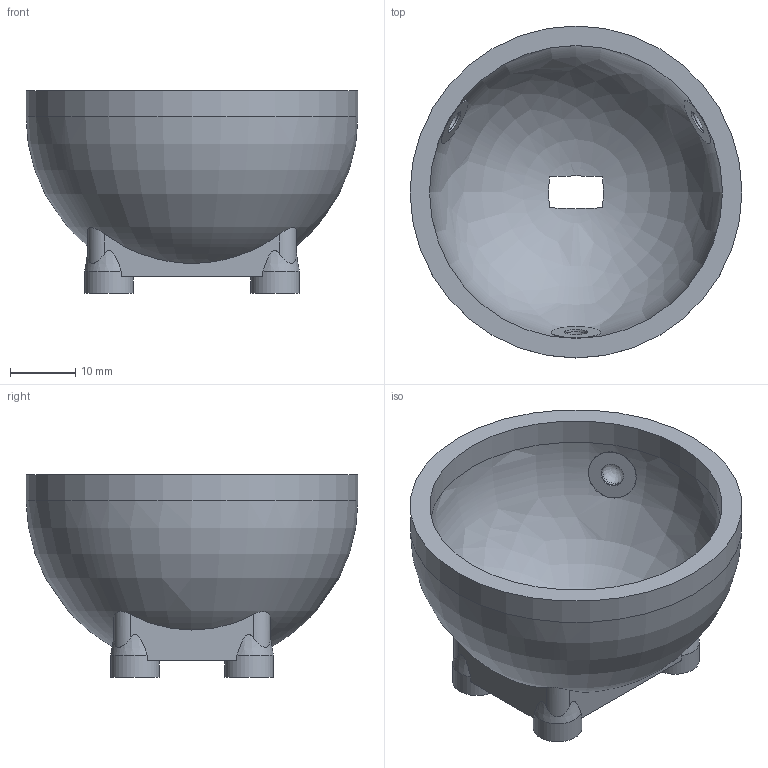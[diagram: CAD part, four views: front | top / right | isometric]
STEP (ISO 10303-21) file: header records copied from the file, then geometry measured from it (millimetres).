
FILE_DESCRIPTION(('Open CASCADE Model'),'2;1');
FILE_NAME('Open CASCADE Shape Model','2026-05-31T19:43:46',('Author'),( 'Open CASCADE'),'Open CASCADE STEP processor 7.6','Open CASCADE 7.6' ,'Unknown');
FILE_SCHEMA(('AP242_MANAGED_MODEL_BASED_3D_ENGINEERING_MIM_LF. {1 0 10303 442 1 1 4 }'));
Length unit declared in the file: millimetre
Products named in the file (1): Open CASCADE STEP translator 7.6 11
Bounding box: 51 x 51 x 31.1 mm (x, y, z)
Volume: 14138 mm3; surface area: 9938.7 mm2
Topology: 1 solids, 1 shells, 65 faces, 153 edges, 101 vertices
Faces by surface type: cylinder 27, plane 22, revolution 8, bspline 4, cone 4
Full cylindrical faces by diameter (mm): 3.5 x4, 3.57 x3, 3.572 x3, 7.5 x4, 7.57 x3, 45 x1, 51 x1
Entity records: 8784 total; most frequent: CARTESIAN_POINT 5777, DIRECTION 537, ORIENTED_EDGE 300, PCURVE 300, DEFINITIONAL_REPRESENTATION 300, LINE 251, VECTOR 251, EDGE_CURVE 150
